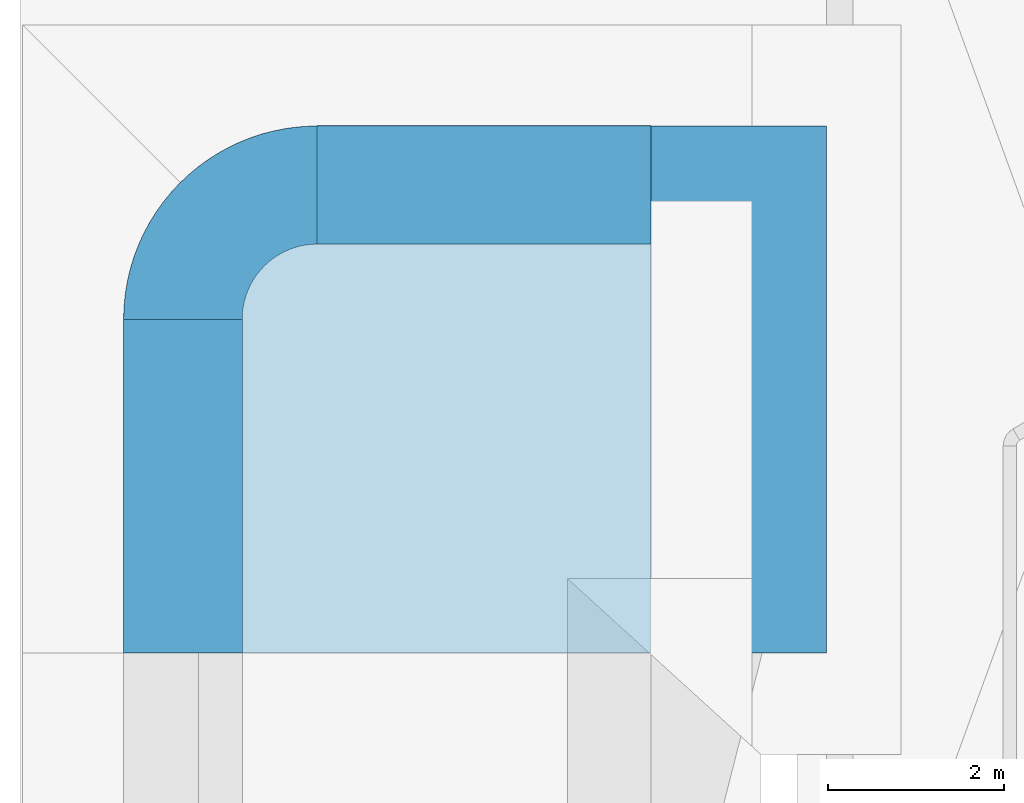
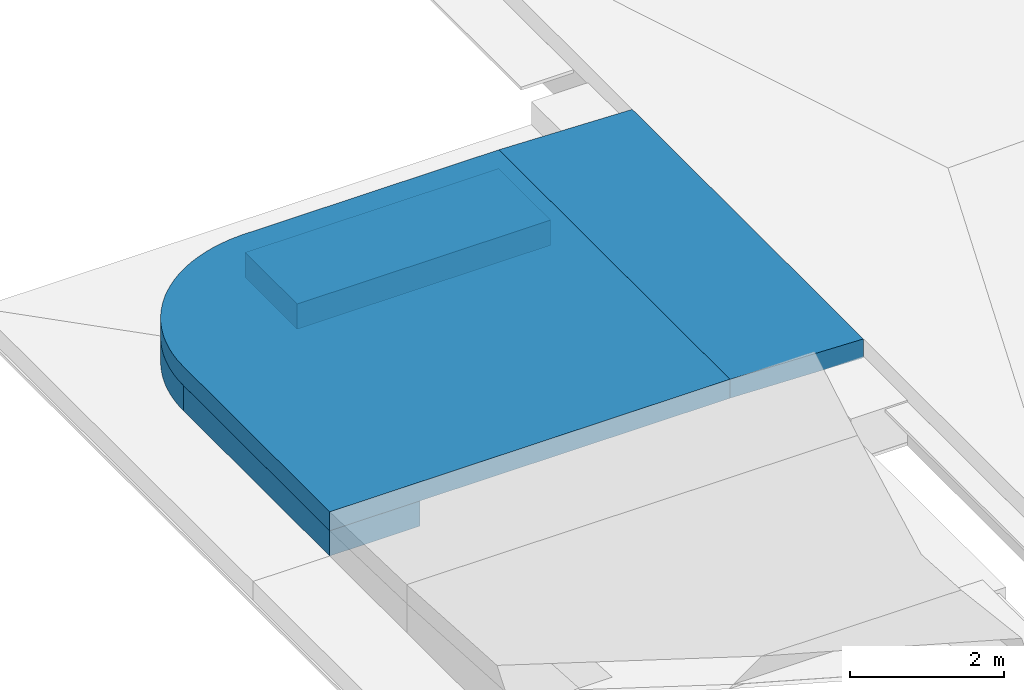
# One storey, part 6 of 8: 5 ramps.
"""IFC4 building model written with IfcOpenShell, lengths in millimetres."""

from ifc_helpers import new_model, entity, si_unit, converted_unit, derived_unit, direction, frame, origin_with_axes, place, context, subcontext, project, spatial, polygons, material, type_object, element, save


model = new_model("IFC4")

# Units and contexts
model_context = context("Model", 3, precision=0.01, world=origin_with_axes(), true_north=direction((0.0, 1.0)))
body_context = subcontext(model_context, "Body", "Model", "MODEL_VIEW")
ifc_project = project(units=[si_unit("LENGTHUNIT", "METRE", prefix="MILLI"), si_unit("AREAUNIT", "SQUARE_METRE"), si_unit("VOLUMEUNIT", "CUBIC_METRE"), converted_unit("PLANEANGLEUNIT", "DEGREE", entity("IfcPlaneAngleMeasure", 0.0174532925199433), si_unit("PLANEANGLEUNIT", "RADIAN"), dimensions=[0, 0, 0, 0, 0, 0, 0]), converted_unit("TIMEUNIT", "Year", entity("IfcTimeMeasure", 31557600.0), si_unit("TIMEUNIT", "SECOND"), dimensions=[0, 0, 1, 0, 0, 0, 0]), si_unit("MASSUNIT", "GRAM", prefix="KILO"), si_unit("THERMODYNAMICTEMPERATUREUNIT", "DEGREE_CELSIUS"), si_unit("LUMINOUSINTENSITYUNIT", "LUMEN"), si_unit("ENERGYUNIT", "JOULE", prefix="MEGA"), derived_unit("THERMALCONDUCTANCEUNIT", [(si_unit("POWERUNIT", "WATT"), 1), (si_unit("LENGTHUNIT", "METRE"), -1), (si_unit("THERMODYNAMICTEMPERATUREUNIT", "KELVIN"), -1)]), derived_unit("SPECIFICHEATCAPACITYUNIT", [(si_unit("ENERGYUNIT", "JOULE"), 1), (si_unit("MASSUNIT", "GRAM", prefix="KILO"), -1), (si_unit("THERMODYNAMICTEMPERATUREUNIT", "KELVIN"), -1)]), derived_unit("MASSDENSITYUNIT", [(si_unit("MASSUNIT", "GRAM", prefix="KILO"), 1), (si_unit("VOLUMEUNIT", "CUBIC_METRE"), -1)])], contexts=[model_context])

# Site, building, storey
site_placement = place(None, origin_with_axes())
site = spatial("IfcSite", under=ifc_project, at=site_placement, Name="Gelände", CompositionType="ELEMENT")
building_placement = place(site_placement, origin_with_axes())
building = spatial("IfcBuilding", under=site, at=building_placement, Name="Gebäude", CompositionType="ELEMENT")
storey_placement = place(building_placement, frame((0.0, 0.0, -6000.0), z_axis=(0.0, 0.0, 1.0), x_axis=(1.0, 0.0, 0.0)))
storey = spatial("IfcBuildingStorey", under=building, at=storey_placement, Name="Fundation", CompositionType="ELEMENT", Elevation=-6000.0)

# Ramps
ifc_material_1 = material(Name="Magerbeton")
ramp_type_1 = type_object("IfcRampType", Name="Magerbeton 1350 x 400", PredefinedType="NOTDEFINED")
ramp_1_placement = place(storey_placement, frame((-16571.00255522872, 28197.59725747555, 1459.999998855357), z_axis=(0.0, 0.0, 1.0), x_axis=(1.0, 0.0, 0.0)))
element("IfcRamp", 1, at=ramp_1_placement, inside=storey, type_object=ramp_type_1, material=ifc_material_1, Name="Unterzug-032", PredefinedType="NOTDEFINED", context=body_context, shape_type="Tessellation", body=[
    polygons([(1350.000183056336, 0.0, 0.0), (0.0, 0.0, 0.0), (0.0, 3799.950030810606, 0.0), (1350.000183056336, 3799.950030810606, 0.0), (1350.000183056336, 0.0, 400.0023354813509), (0.0, 0.0, 400.0023354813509), (0.0, 3799.950030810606, 400.0023354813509), (1350.000183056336, 3799.950030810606, 400.0023354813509)], [[[1, 2, 3, 4]], [[5, 6, 2, 1]], [[2, 6, 7, 3]], [[8, 4, 3, 7]], [[5, 1, 4, 8]], [[6, 5, 8, 7]]], closed=True),
])
ramp_2_placement = place(storey_placement, frame((-14372.10504366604, 34203.86694980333, 1459.999998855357), z_axis=(0.0, 0.0, 1.0), x_axis=(-0.7082891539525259, 0.7059224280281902, 0.0)))
element("IfcRamp", 2, at=ramp_2_placement, inside=storey, type_object=ramp_type_1, material=ifc_material_1, Name="Unterzug-032", PredefinedType="NOTDEFINED", context=body_context, shape_type="Tessellation", body=[
    polygons([(97.29254173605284, 3011.253358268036, 400.0023354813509), (141.5676132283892, 2958.966813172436, 400.0023354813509), (141.5676132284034, 2958.966813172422, 0.0), (97.29254173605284, 3011.253358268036, 0.0), (-890.513367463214, 2088.727001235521, 400.0023354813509), (168.2167908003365, 2925.51274427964, 400.0023354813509), (71.92286094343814, 3039.254954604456, 400.0023354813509), (-927.9122833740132, 2132.893166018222, 400.0023354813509), (189.4548786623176, 2898.851491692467, 400.0023354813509), (189.4548786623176, 2898.851491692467, 0.0), (168.2167908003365, 2925.51274427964, 0.0), (-890.513367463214, 2088.727001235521, 0.0), (-927.9122833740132, 2132.893166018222, 0.0), (71.92286094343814, 3039.254954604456, 0.0), (48.30881155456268, 3065.318785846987, 400.0023354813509), (48.30881155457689, 3065.318785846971, 0.0), (-856.1814194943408, 2042.13680514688, 400.0023354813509), (256.6214759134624, 2805.536796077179, 400.0023354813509), (228.1920962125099, 2846.283121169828, 400.0023354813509), (0.0, 3114.927964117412, 400.0023354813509), (-956.1904874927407, 2161.932557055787, 400.0023354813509), (228.1920962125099, 2846.283121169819, 0.0), (256.6214759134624, 2805.536796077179, 0.0), (-856.1814194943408, 2042.13680514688, 0.0), (0.0, 3114.927964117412, 0.0), (-956.1904874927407, 2161.932557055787, 0.0), (-825.0730882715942, 1993.335158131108, 400.0023354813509), (336.7351922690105, 2679.872738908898, 400.0023354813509), (306.297291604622, 2729.997826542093, 400.0023354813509), (274.2626602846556, 2780.2526203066, 400.0023354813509), (274.2626602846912, 2780.252620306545, 0.0), (306.2972916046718, 2729.997826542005, 0.0), (336.7351922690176, 2679.872738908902, 0.0), (-825.0730882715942, 1993.335158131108, 0.0), (-797.3303139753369, 1942.544730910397, 400.0023354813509), (408.1939428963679, 2549.091995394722, 400.0023354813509), (375.2418125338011, 2612.039596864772, 400.0023354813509), (351.2126470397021, 2656.031288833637, 400.0023354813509), (351.2126470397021, 2656.031288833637, 0.0), (375.2418125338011, 2612.039596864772, 0.0), (408.1939428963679, 2549.091995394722, 0.0), (-797.3303139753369, 1942.544730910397, 0.0), (-773.079680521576, 1889.997268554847, 400.0023354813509), (470.6731105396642, 2413.789160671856, 400.0023354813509), (434.0756775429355, 2496.007561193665, 400.0023354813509), (419.8762143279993, 2526.775654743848, 400.0023354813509), (419.8762143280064, 2526.775654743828, 0.0), (434.0756775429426, 2496.007561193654, 0.0), (470.6731105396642, 2413.789160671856, 0.0), (-773.079680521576, 1889.997268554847, 0.0), (-752.4318379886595, 1835.932533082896, 400.0023354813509), (523.888925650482, 2274.579275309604, 400.0023354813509), (480.7903110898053, 2390.724392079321, 400.0023354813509), (479.887143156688, 2393.08926556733, 400.0023354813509), (479.887143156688, 2393.089265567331, 0.0), (480.79031108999, 2390.724392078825, 0.0), (523.8889256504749, 2274.5792753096, 0.0), (-752.4318379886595, 1835.932533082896, 0.0), (567.5997429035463, 2132.095005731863, 400.0023354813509), (528.6328695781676, 2261.794968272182, 400.0023354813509), (-735.480997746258, 1780.597209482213, 400.0023354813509), (528.6328695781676, 2261.794968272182, 0.0), (567.5997429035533, 2132.095005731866, 0.0), (-735.480997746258, 1780.597209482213, 0.0), (568.821496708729, 2128.028438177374, 400.0023354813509), (568.821496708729, 2128.028438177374, 0.0), (600.4452134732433, 1991.982303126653, 400.0023354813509), (-722.3045025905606, 1724.243780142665, 400.0023354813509), (601.2877130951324, 1986.920357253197, 400.0023354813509), (600.4452134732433, 1991.982303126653, 0.0), (601.2877130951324, 1986.920357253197, 0.0), (-722.3045025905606, 1724.243780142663, 0.0), (624.8445100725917, 1839.786928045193, 400.0023354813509), (623.3766823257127, 1854.204372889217, 400.0023354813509), (-712.9624738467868, 1667.129372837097, 400.0023354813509), (623.3766823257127, 1854.204372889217, 0.0), (624.8445100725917, 1839.786928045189, 0.0), (-712.9624738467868, 1667.129372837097, 0.0), (637.5235663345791, 1715.249430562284, 400.0023354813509), (637.5235663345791, 1715.249430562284, 0.0), (638.4288326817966, 1691.433736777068, 400.0023354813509), (-707.497537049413, 1609.514587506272, 400.0023354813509), (638.4288326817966, 1691.433736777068, 0.0), (-707.497537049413, 1609.514587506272, 0.0), (642.8289009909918, 1575.676998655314, 400.0023354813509), (642.8289009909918, 1575.676998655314, 0.0), (641.9844658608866, 1542.534581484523, 400.0023354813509), (-705.9346274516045, 1551.662307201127, 400.0023354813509), (641.9844658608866, 1542.534581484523, 0.0), (-705.9346274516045, 1551.662307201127, 0.0), (639.2713235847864, 1436.049086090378, 400.0023354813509), (639.2713235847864, 1436.049086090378, 0.0), (635.5006431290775, 1393.765151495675, 400.0023354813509), (-708.2808762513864, 1493.836498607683, 400.0023354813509), (635.5006431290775, 1393.765151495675, 0.0), (-708.2808762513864, 1493.836498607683, 0.0), (626.8651592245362, 1296.927925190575, 400.0023354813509), (626.8651592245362, 1296.927925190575, 0.0), (619.0120264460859, 1245.799958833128, 400.0023354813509), (-714.5255780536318, 1436.301007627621, 400.0023354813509), (619.0120264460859, 1245.799958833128, 0.0), (-714.5255780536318, 1436.301007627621, 0.0), (605.6603631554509, 1158.873707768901, 400.0023354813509), (605.6603631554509, 1158.873707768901, 0.0), (592.5984777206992, 1099.30928368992, 400.0023354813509), (-724.6402397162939, 1379.31835550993, 400.0023354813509), (592.5984777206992, 1099.30928368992, 0.0), (-724.6402397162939, 1379.31835550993, 0.0), (575.7423196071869, 1022.442329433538, 400.0023354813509), (575.7423196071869, 1022.442329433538, 0.0), (556.3846241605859, 954.9561483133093, 400.0023354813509), (-738.5787103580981, 1323.148541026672, 400.0023354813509), (556.3846241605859, 954.9561483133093, 0.0), (-738.5787103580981, 1323.148541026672, 0.0), (537.2314979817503, 888.1831511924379, 400.0023354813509), (537.2314979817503, 888.1831511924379, 0.0), (510.5392206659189, 813.3933333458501, 400.0023354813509), (-756.2773919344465, 1268.047854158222, 400.0023354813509), (510.5392206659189, 813.3933333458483, 0.0), (-756.2773919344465, 1268.047854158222, 0.0), (490.2829677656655, 756.6367873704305, 400.0023354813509), (490.2829677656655, 756.6367873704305, 0.0), (455.2743134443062, 675.2604503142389, 400.0023354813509), (-777.6555294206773, 1214.267706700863, 400.0023354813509), (455.2743134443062, 675.2604503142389, 0.0), (-777.6555294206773, 1214.267706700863, 0.0), (435.085774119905, 628.3329287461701, 400.0023354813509), (435.085774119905, 628.3329287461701, 0.0), (390.8442099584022, 541.1810835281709, 400.0023354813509), (-802.6155792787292, 1162.053485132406, 400.0023354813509), (390.8442099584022, 541.1810835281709, 0.0), (-802.6155792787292, 1162.053485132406, 0.0), (371.8621766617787, 503.7882096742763, 400.0023354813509), (371.8621766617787, 503.7882096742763, 0.0), (317.5442612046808, 411.7600141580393, 400.0023354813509), (-831.0436545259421, 1111.643430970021, 400.0023354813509), (317.5442612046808, 411.7600141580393, 0.0), (-831.0436545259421, 1111.643430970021, 0.0), (300.8667545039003, 383.5041277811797, 400.0023354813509), (300.8667545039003, 383.5041277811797, 0.0), (235.7094631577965, 287.5805387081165, 400.0023354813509), (-862.8100443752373, 1063.267553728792, 400.0023354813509), (235.7094631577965, 287.5805387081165, 0.0), (-862.8100443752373, 1063.267553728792, 0.0), (222.3853811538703, 267.9650246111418, 400.0023354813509), (222.3853811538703, 267.9650246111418, 0.0), (145.7128849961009, 169.201893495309, 400.0023354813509), (-897.7698060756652, 1017.146581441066, 400.0023354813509), (145.7128849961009, 169.201893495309, 0.0), (-897.7698060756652, 1017.146581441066, 0.0), (136.7340734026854, 157.6361353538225, 400.0023354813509), (136.7340734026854, 157.6361353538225, 0.0), (47.9639324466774, 57.1567960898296, 400.0023354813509), (-935.7634262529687, 973.4909535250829, 400.0023354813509), (47.96393244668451, 57.15679608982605, 0.0), (-935.7634262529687, 973.4909535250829, 0.0), (44.25771883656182, 52.96171550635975, 400.0023354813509), (44.25771883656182, 52.96171550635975, 0.0), (-4.440779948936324, 4.425941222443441, 400.0023354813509), (-956.1904874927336, 952.9954070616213, 400.0023354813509), (-4.440779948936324, 4.425941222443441, 0.0), (-956.1904874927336, 952.9954070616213, 0.0)], [[[1, 2, 3, 4]], [[5, 6, 2, 1, 7, 8]], [[2, 6, 9, 10, 11, 3]], [[4, 3, 11, 12, 13, 14]], [[15, 7, 1, 4, 14, 16]], [[17, 18, 19, 9, 6, 5]], [[8, 7, 15, 20, 21]], [[12, 5, 8, 13]], [[9, 19, 22, 10]], [[10, 22, 23, 24, 12, 11]], [[25, 16, 14, 13, 26]], [[20, 15, 16, 25]], [[27, 28, 29, 30, 18, 17]], [[19, 18, 30, 31, 23, 22]], [[24, 17, 5, 12]], [[21, 20, 25, 26]], [[13, 8, 21, 26]], [[31, 32, 33, 34, 24, 23]], [[35, 36, 37, 38, 28, 27]], [[29, 28, 38, 39, 33, 32]], [[30, 29, 32, 31]], [[34, 27, 17, 24]], [[39, 40, 41, 42, 34, 33]], [[43, 44, 45, 46, 36, 35]], [[37, 36, 46, 47, 41, 40]], [[38, 37, 40, 39]], [[42, 35, 27, 34]], [[47, 48, 49, 50, 42, 41]], [[51, 52, 53, 54, 44, 43]], [[45, 44, 54, 55, 49, 48]], [[46, 45, 48, 47]], [[50, 43, 35, 42]], [[55, 56, 57, 58, 50, 49]], [[59, 60, 52, 51, 61]], [[53, 52, 60, 62, 57, 56]], [[54, 53, 56, 55]], [[58, 51, 43, 50]], [[57, 62, 63, 64, 58]], [[60, 59, 65, 66, 63, 62]], [[64, 61, 51, 58]], [[67, 65, 59, 61, 68, 69]], [[66, 70, 71, 72, 64, 63]], [[66, 65, 67, 70]], [[72, 68, 61, 64]], [[73, 74, 69, 68, 75]], [[67, 69, 74, 76, 71, 70]], [[71, 76, 77, 78, 72]], [[78, 75, 68, 72]], [[74, 73, 79, 80, 77, 76]], [[81, 79, 73, 75, 82]], [[77, 80, 83, 84, 78]], [[84, 82, 75, 78]], [[79, 81, 85, 86, 83, 80]], [[87, 85, 81, 82, 88]], [[83, 86, 89, 90, 84]], [[90, 88, 82, 84]], [[85, 87, 91, 92, 89, 86]], [[93, 91, 87, 88, 94]], [[89, 92, 95, 96, 90]], [[96, 94, 88, 90]], [[91, 93, 97, 98, 95, 92]], [[99, 97, 93, 94, 100]], [[95, 98, 101, 102, 96]], [[102, 100, 94, 96]], [[97, 99, 103, 104, 101, 98]], [[105, 103, 99, 100, 106]], [[101, 104, 107, 108, 102]], [[108, 106, 100, 102]], [[103, 105, 109, 110, 107, 104]], [[111, 109, 105, 106, 112]], [[107, 110, 113, 114, 108]], [[114, 112, 106, 108]], [[109, 111, 115, 116, 113, 110]], [[117, 115, 111, 112, 118]], [[113, 116, 119, 120, 114]], [[120, 118, 112, 114]], [[115, 117, 121, 122, 119, 116]], [[123, 121, 117, 118, 124]], [[119, 122, 125, 126, 120]], [[126, 124, 118, 120]], [[121, 123, 127, 128, 125, 122]], [[129, 127, 123, 124, 130]], [[125, 128, 131, 132, 126]], [[132, 130, 124, 126]], [[127, 129, 133, 134, 131, 128]], [[135, 133, 129, 130, 136]], [[131, 134, 137, 138, 132]], [[138, 136, 130, 132]], [[133, 135, 139, 140, 137, 134]], [[141, 139, 135, 136, 142]], [[137, 140, 143, 144, 138]], [[144, 142, 136, 138]], [[139, 141, 145, 146, 143, 140]], [[147, 145, 141, 142, 148]], [[143, 146, 149, 150, 144]], [[150, 148, 142, 144]], [[145, 147, 151, 152, 149, 146]], [[153, 151, 147, 148, 154]], [[149, 152, 155, 156, 150]], [[156, 154, 148, 150]], [[151, 153, 157, 158, 155, 152]], [[159, 157, 153, 154, 160]], [[155, 158, 161, 162, 156]], [[162, 160, 154, 156]], [[158, 157, 159, 161]], [[162, 161, 159, 160]]], closed=True),
])
ramp_3_placement = place(storey_placement, frame((-10571.00255522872, 34203.82933886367, 1459.999998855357), z_axis=(0.0, 0.0, 1.0), x_axis=(0.0, 1.0, 0.0)))
element("IfcRamp", 3, at=ramp_3_placement, inside=storey, type_object=ramp_type_1, material=ifc_material_1, Name="Unterzug-032", PredefinedType="NOTDEFINED", context=body_context, shape_type="Tessellation", body=[
    polygons([(-1350.000183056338, 3800.001922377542, 400.0023354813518), (-1350.000183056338, 0.0, 400.0023354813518), (0.0, 0.0, 400.0023354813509), (0.0, 3800.001922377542, 400.0023354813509), (-1350.000183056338, 3800.001922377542, 0.0), (-1350.000183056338, 0.0, 0.0), (0.0, 0.0, 0.0), (0.0, 3800.001922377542, 0.0)], [[[1, 2, 3, 4]], [[5, 6, 2, 1]], [[2, 6, 7, 3]], [[4, 3, 7, 8]], [[8, 5, 1, 4]], [[8, 7, 6, 5]]], closed=True),
])
ifc_material_2 = material(Name="Beton bewehrt")
ramp_type_2 = type_object("IfcRampType", Name="Beton bewehrt 300", PredefinedType="NOTDEFINED")
ramp_4_placement = place(storey_placement, frame((-8571.002555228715, 33197.59725747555, 1800.047863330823), z_axis=(0.0, 0.0, 1.0), x_axis=(0.0, -1.0, 0.0)))
element("IfcRamp", 4, at=ramp_4_placement, inside=storey, type_object=ramp_type_2, material=ifc_material_2, Name="Dach-008", PredefinedType="NOTDEFINED", context=body_context, shape_type="Tessellation", body=[
    polygons([(-1000.0, -2000.0, 359.9521355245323), (5000.0, -2000.000000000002, 359.9521355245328), (5000.0, 0.0, 299.9521355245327), (-1000.0, 0.0, 299.9521355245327), (-1000.00000038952, -2000.00000038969, 59.99999986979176), (4999.999999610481, -2000.00000038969, 59.99999986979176), (4999.999999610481, 2.557332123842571e-07, -1.495710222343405e-07), (-1000.00000038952, 2.557332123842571e-07, -1.495710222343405e-07)], [[[1, 2, 3, 4]], [[2, 1, 5, 6]], [[3, 2, 6, 7]], [[4, 3, 7, 8]], [[1, 4, 8, 5]], [[6, 5, 8, 7]]], closed=True),
])
ramp_5_placement = place(storey_placement, frame((-16571.00255522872, 28197.59725747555, 2159.999998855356), z_axis=(0.0, 0.0, 1.0), x_axis=(1.0, 0.0, 0.0)))
element("IfcRamp", 5, at=ramp_5_placement, inside=storey, type_object=ramp_type_2, material=ifc_material_2, Name="Deckennr.-068", PredefinedType="NOTDEFINED", context=body_context, shape_type="Tessellation", body=[
    polygons([(0.0, 0.0, 0.0), (0.0, 0.0, -299.9999999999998), (6000.0, 0.0, -299.9999999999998), (6000.0, 0.0, 0.0), (0.0, 3800.000000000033, 0.0), (0.0, 3800.000000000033, -299.9999999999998), (5.099379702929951, 3967.148210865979, -299.9999999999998), (21.39092716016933, 4114.944066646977, -299.9999999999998), (47.622968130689, 4261.30290488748, -299.9999999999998), (83.67581182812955, 4405.556923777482, -299.9999999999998), (129.3849573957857, 4547.047925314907, -299.9999999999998), (184.541844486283, 4685.130318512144, -299.9999999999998), (248.8948048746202, 4819.174065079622, -299.9999999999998), (322.1502107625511, 4948.567554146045, -299.9999999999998), (403.9738145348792, 5072.720392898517, -299.9999999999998), (493.9922738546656, 5191.066100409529, -299.9999999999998), (591.7948551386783, 5303.064692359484, -299.9999999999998), (644.3650813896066, 5355.634918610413, -299.9999999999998), (763.3213891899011, 5467.591814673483, -299.9999999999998), (879.5300441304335, 5560.909390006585, -299.9999999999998), (1001.77342823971, 5646.168855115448, -299.9999999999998), (1129.493772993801, 5722.98119061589, -299.9999999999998), (1262.108319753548, 5790.995919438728, -299.9999999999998), (1399.011978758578, 5849.902705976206, -299.9999999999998), (1539.580090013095, 5899.432772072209, -299.9999999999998), (1683.171273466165, 5939.360123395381, -299.9999999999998), (1829.130355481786, 5969.502580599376, -299.9999999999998), (1976.791358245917, 5989.722610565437, -299.9999999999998), (2125.480538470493, 5999.92795393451, -299.9999999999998), (2200.000000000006, 6000.0, -299.9999999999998), (6000.0, 6000.0, -299.9999999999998), (6000.0, 6000.0, 0.0), (2200.000000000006, 6000.0, 0.0), (2125.480538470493, 5999.92795393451, 0.0), (1976.791358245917, 5989.722610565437, 0.0), (1829.130355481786, 5969.502580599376, 0.0), (1683.171273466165, 5939.360123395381, 0.0), (1539.580090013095, 5899.432772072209, 0.0), (1399.011978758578, 5849.902705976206, 0.0), (1262.108319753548, 5790.995919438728, 0.0), (1129.493772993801, 5722.98119061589, 0.0), (1001.77342823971, 5646.168855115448, 0.0), (879.5300441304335, 5560.909390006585, 0.0), (763.3213891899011, 5467.591814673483, 0.0), (644.3650813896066, 5355.634918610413, 0.0), (591.7948551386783, 5303.064692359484, 0.0), (493.9922738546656, 5191.066100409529, 0.0), (403.9738145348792, 5072.720392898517, 0.0), (322.1502107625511, 4948.567554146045, 0.0), (248.8948048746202, 4819.174065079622, 0.0), (184.541844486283, 4685.130318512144, 0.0), (129.3849573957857, 4547.047925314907, 0.0), (83.67581182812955, 4405.556923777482, 0.0), (47.622968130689, 4261.30290488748, 0.0), (21.39092716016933, 4114.944066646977, 0.0), (5.099379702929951, 3967.148210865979, 0.0)], [[[1, 2, 3, 4]], [[5, 6, 2, 1]], [[3, 2, 6, 7, 8, 9, 10, 11, 12, 13, 14, 15, 16, 17, 18, 19, 20, 21, 22, 23, 24, 25, 26, 27, 28, 29, 30, 31]], [[4, 3, 31, 32]], [[5, 1, 4, 32, 33, 34, 35, 36, 37, 38, 39, 40, 41, 42, 43, 44, 45, 46, 47, 48, 49, 50, 51, 52, 53, 54, 55, 56]], [[56, 7, 6, 5]], [[55, 8, 7, 56]], [[54, 9, 8, 55]], [[53, 10, 9, 54]], [[52, 11, 10, 53]], [[51, 12, 11, 52]], [[50, 13, 12, 51]], [[49, 14, 13, 50]], [[48, 15, 14, 49]], [[47, 16, 15, 48]], [[46, 17, 16, 47]], [[45, 18, 17, 46]], [[44, 19, 18, 45]], [[43, 20, 19, 44]], [[42, 21, 20, 43]], [[41, 22, 21, 42]], [[40, 23, 22, 41]], [[39, 24, 23, 40]], [[38, 25, 24, 39]], [[37, 26, 25, 38]], [[36, 27, 26, 37]], [[35, 28, 27, 36]], [[34, 29, 28, 35]], [[33, 30, 29, 34]], [[32, 31, 30, 33]]], closed=True),
])

save(model, "model.ifc")
